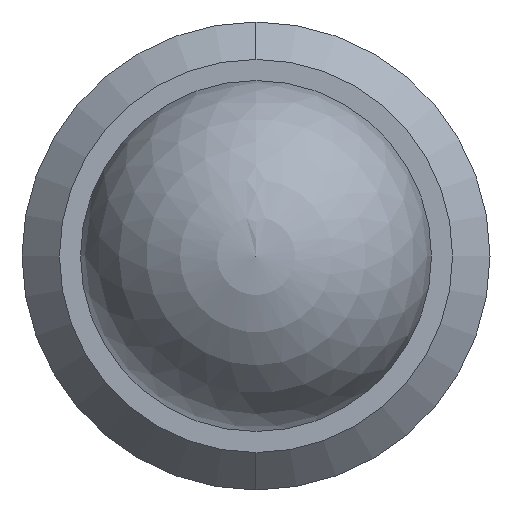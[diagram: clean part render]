
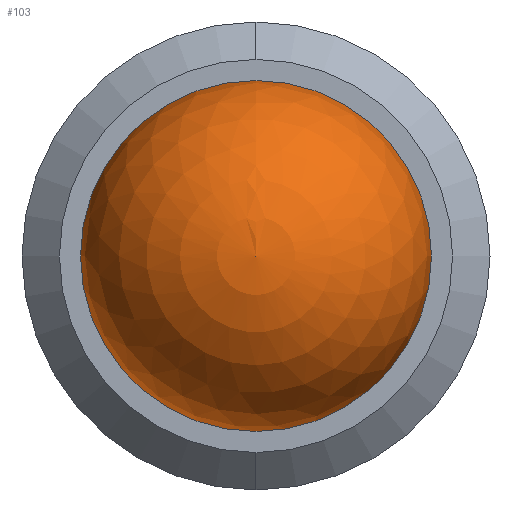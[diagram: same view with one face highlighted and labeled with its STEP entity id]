
A CAD part, left-side view. The second image highlights one B-rep face of the part: STEP entity #103.
In plain terms, the highlighted spherical face has radius 2.381 mm.
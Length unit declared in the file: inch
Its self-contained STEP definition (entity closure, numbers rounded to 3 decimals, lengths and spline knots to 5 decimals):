
#10 = FACE_OUTER_BOUND ( 'NONE', #336, .T. ) ;
#19 = EDGE_CURVE ( 'NONE', #352, #265, #533, .T. ) ;
#42 = EDGE_CURVE ( 'NONE', #352, #265, #283, .T. ) ;
#76 = DIRECTION ( 'NONE',  ( -1., 0., 0. ) ) ;
#81 = ORIENTED_EDGE ( 'NONE', *, *, #19, .T. ) ;
#103 = ADVANCED_FACE ( 'NONE', ( #10 ), #251, .T. ) ;
#172 = DIRECTION ( 'NONE',  ( 0., 0., 1. ) ) ;
#175 = CARTESIAN_POINT ( 'NONE',  ( 0., 0.09375, 0. ) ) ;
#206 = CARTESIAN_POINT ( 'NONE',  ( 0., 0., 0. ) ) ;
#251 = SPHERICAL_SURFACE ( 'NONE', #460, 0.09375 ) ;
#265 = VERTEX_POINT ( 'NONE', #452 ) ;
#283 = CIRCLE ( 'NONE', #492, 0.09375 ) ;
#299 = DIRECTION ( 'NONE',  ( 0., 0., -1. ) ) ;
#336 = EDGE_LOOP ( 'NONE', ( #388, #81 ) ) ;
#337 = DIRECTION ( 'NONE',  ( -1., 0., 0. ) ) ;
#352 = VERTEX_POINT ( 'NONE', #175 ) ;
#388 = ORIENTED_EDGE ( 'NONE', *, *, #42, .F. ) ;
#452 = CARTESIAN_POINT ( 'NONE',  ( 0., -0.09375, 0. ) ) ;
#460 = AXIS2_PLACEMENT_3D ( 'NONE', #532, #337, #592 ) ;
#477 = CARTESIAN_POINT ( 'NONE',  ( 0., 0., 0. ) ) ;
#486 = DIRECTION ( 'NONE',  ( 1., 0., 0. ) ) ;
#492 = AXIS2_PLACEMENT_3D ( 'NONE', #206, #486, #299 ) ;
#519 = AXIS2_PLACEMENT_3D ( 'NONE', #477, #76, #172 ) ;
#532 = CARTESIAN_POINT ( 'NONE',  ( 0., 0., 0. ) ) ;
#533 = CIRCLE ( 'NONE', #519, 0.09375 ) ;
#592 = DIRECTION ( 'NONE',  ( 0., 0., 1. ) ) ;
